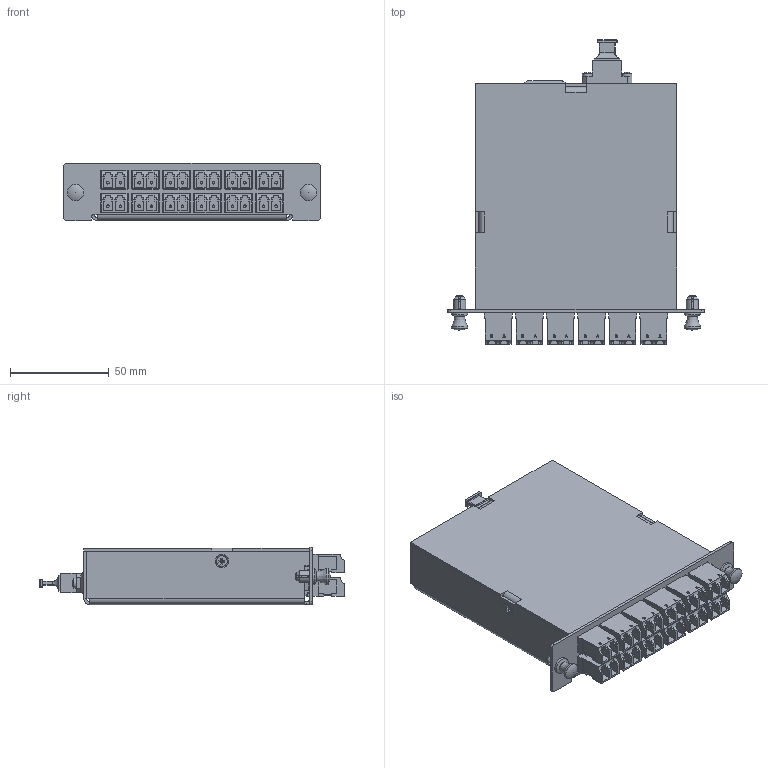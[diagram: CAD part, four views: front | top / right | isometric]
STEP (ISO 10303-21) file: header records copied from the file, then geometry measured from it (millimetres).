
FILE_DESCRIPTION(/* description */ ('STEP AP242','CAx-IF Rec.Pracs.---Representation and Presentation of Product Manufacturing Information (PMI)---4.0---2014-10-13','CAx-IF Rec.Pracs.---3D Tessellated Geometry---0.4---2014-09-14','2;1'),/* implementation_level */ '2;1');
FILE_NAME(/* name */ '650cb36a8f3b0b08c2d30426',/* time_stamp */ '2023-09-21T21:19:39Z',/* author */ (''),/* organization */ (''),/* preprocessor_version */ 'ST-DEVELOPER v19.4',/* originating_system */ ' ',/* authorisation */ ' ');
FILE_SCHEMA (('AP242_MANAGED_MODEL_BASED_3D_ENGINEERING_MIM_LF { 1 0 10303 442 1 1 4 }'));
Length unit declared in the file: metre
Products named in the file (16): MTPC-1M-24XXLC-1; PEM SMPS-M3; Part 1; PH Countersunk flat head screw M3x0.5 x 5; User Library-Fiber Optic LC Adapters; Plunger - Mini Snap Latch; PH Pan head screw M2.5x0.45 x 6; Grommet - Mini Snap Latch; Housing; Lid; FOA-990A_3D <1>; FOA-991A-MA1; DSTCP-MTP-FOA_update 2011; FOA-992B_WITH CHAMFERS
Assembly tree (32 placements, depth 3):
  MTPC-1M-24XXLC-1
    PEM SMPS-M3  x3
    Part 1
    PH Countersunk flat head screw M3x0.5 x 5  x3
    User Library-Fiber Optic LC Adapters  x12
    Plunger - Mini Snap Latch
    PH Pan head screw M2.5x0.45 x 6  x2
    Grommet - Mini Snap Latch
    Housing
    Grommet - Mini Snap Latch
    Lid
    FOA-990A_3D <1>
      FOA-991A-MA1  x2
      DSTCP-MTP-FOA_update 2011
      FOA-992B_WITH CHAMFERS
    Plunger - Mini Snap Latch
Bounding box: 130 x 154.44 x 29 mm (x, y, z)
Volume: 74954.6 mm3; surface area: 115567.6 mm2
Topology: 31 solids, 32 shells, 3877 faces, 10685 edges, 6995 vertices
Faces by surface type: plane 3257, bspline 301, cylinder 251, cone 53, torus 9, sphere 6
Full cylindrical faces by diameter (mm): 1.27 x24, 1.75 x4, 2.037 x2, 2.459 x3, 2.5 x2, 2.896 x2, 3 x3, 3.81 x6, 3.937 x2, 4.22 x3, 4.75 x3, 5 x2, 5.5 x3, 5.588 x2, 5.6 x3, 6 x2, 8.382 x4
Entity records: 29736 total; most frequent: CARTESIAN_POINT 6199, ORIENTED_EDGE 4744, DIRECTION 4467, EDGE_CURVE 2372, LINE 1863, VECTOR 1863, VERTEX_POINT 1574, AXIS2_PLACEMENT_3D 1302
